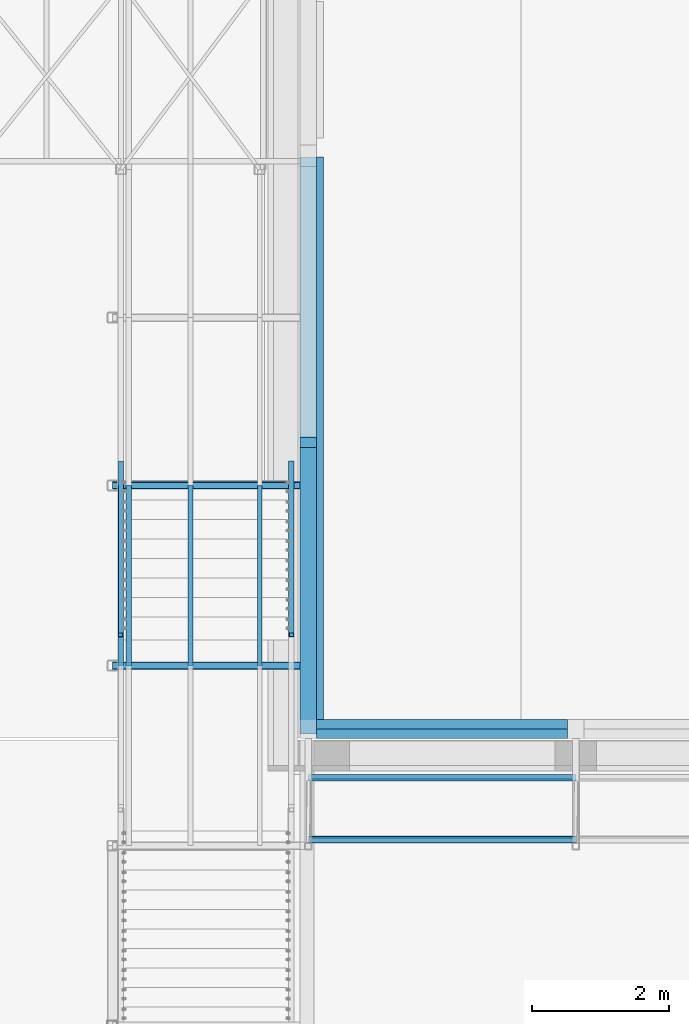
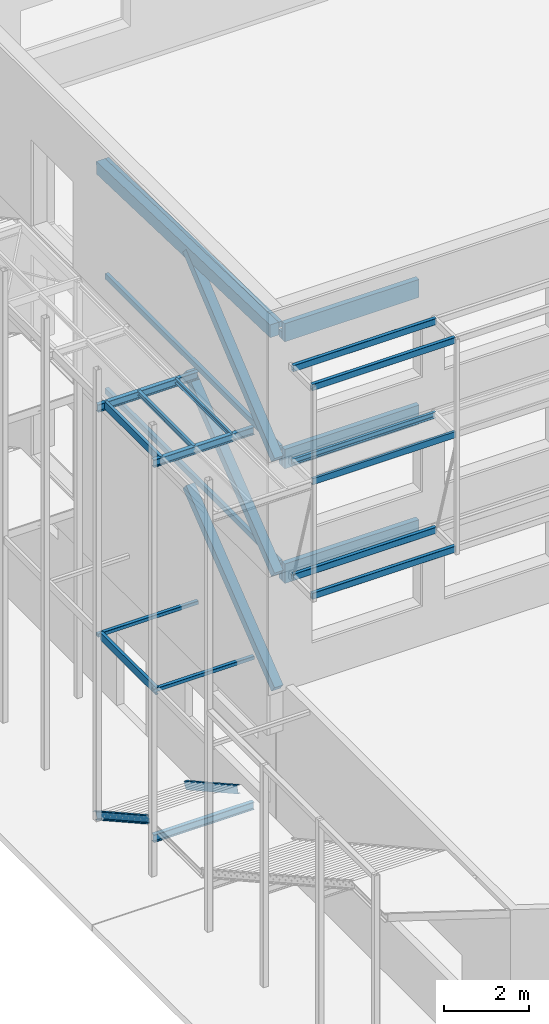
# One storey, part 21 of 78: 25 beams, 5 members, 30 elements without a shape of their own.
"""IFC2X3 building model written with IfcOpenShell, lengths in millimetres."""

from ifc_helpers import new_model, si_unit, frame, origin_with_axes, origin_2d_with_axis, place, context, subcontext, project, spatial, rectangle, hollow_rectangle, i_section, u_section, extrude, clip, halfspace, material, type_object, element, aggregate, save


model = new_model("IFC2X3")

# Units and contexts
model_context = context("Model", 3, precision=1e-05, world=origin_with_axes())
body_context = subcontext(model_context, "Body", "Model", "MODEL_VIEW")
ifc_project = project(units=[si_unit("LENGTHUNIT", "METRE", prefix="MILLI"), si_unit("AREAUNIT", "SQUARE_METRE"), si_unit("VOLUMEUNIT", "CUBIC_METRE"), si_unit("MASSUNIT", "GRAM", prefix="KILO"), si_unit("TIMEUNIT", "SECOND"), si_unit("PLANEANGLEUNIT", "RADIAN"), si_unit("SOLIDANGLEUNIT", "STERADIAN"), si_unit("THERMODYNAMICTEMPERATUREUNIT", "DEGREE_CELSIUS"), si_unit("LUMINOUSINTENSITYUNIT", "LUMEN")], contexts=[model_context])

# Site, building, storey
site_placement = place(None, origin_with_axes())
site = spatial("IfcSite", under=ifc_project, at=site_placement, Name="Site", CompositionType="ELEMENT")
building_placement = place(site_placement, origin_with_axes())
building = spatial("IfcBuilding", under=site, at=building_placement, Name="Undefined", CompositionType="ELEMENT")
storey_placement = place(building_placement, origin_with_axes())
storey = spatial("IfcBuildingStorey", under=building, at=storey_placement, Name="Undefined", CompositionType="ELEMENT", Elevation=0.0)

# Assembly, beam
assembly_1_placement = place(storey_placement, origin_with_axes())
assembly_1 = element("IfcElementAssembly", 1, at=assembly_1_placement, inside=storey, AssemblyPlace="NOTDEFINED", PredefinedType="RIGID_FRAME")
ifc_material_1 = material(Name="STEEL/S275JR")
beam_type_1 = type_object("IfcBeamType", Name="UPN220", PredefinedType="NOTDEFINED")
beam_1_placement = place(assembly_1_placement, frame((-33223.4299999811, -3402.00000000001, 153260.039237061), z_axis=(0.0, 0.0, -1.0), x_axis=(0.0, -1.0, 0.0)))
beam_1 = element("IfcBeam", 2, at=beam_1_placement, type_object=beam_type_1, material=ifc_material_1, Name="SOLIVE", ObjectType="UPN220", context=body_context, shape_type="SweptSolid", body=[
    extrude(u_section(Depth=220.0, FlangeWidth=80.0, WebThickness=9.0, FlangeThickness=12.5, FilletRadius=12.5, EdgeRadius=6.5, FlangeSlope=0.0798299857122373, at=origin_2d_with_axis()), frame((2626.0, 0.0, 0.0), z_axis=(-1.0, 0.0, 0.0), x_axis=(0.0, -1.0, 0.0)), (0.0, 0.0, 1.0), 2626.0),
])
aggregate(assembly_1, [beam_1])

assembly_2_placement = place(storey_placement, origin_with_axes())
assembly_2 = element("IfcElementAssembly", 3, at=assembly_2_placement, inside=storey, AssemblyPlace="NOTDEFINED", PredefinedType="RIGID_FRAME")
beam_2_placement = place(assembly_2_placement, frame((-33101.4299999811, -3402.00000000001, 159860.039237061), z_axis=(0.0, 0.0, -1.0), x_axis=(0.0, -1.0, 0.0)))
beam_2 = element("IfcBeam", 4, at=beam_2_placement, type_object=beam_type_1, material=ifc_material_1, Name="SOLIVE", ObjectType="UPN220", context=body_context, shape_type="SweptSolid", body=[
    extrude(u_section(Depth=220.0, FlangeWidth=80.0, WebThickness=9.0, FlangeThickness=12.5, FilletRadius=12.5, EdgeRadius=6.5, FlangeSlope=0.0798299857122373, at=origin_2d_with_axis()), frame((2626.0, 0.0, 0.0), z_axis=(-1.0, 0.0, 0.0), x_axis=(0.0, -1.0, 0.0)), (0.0, 0.0, 1.0), 2626.0),
])
aggregate(assembly_2, [beam_2])

assembly_3_placement = place(storey_placement, origin_with_axes())
assembly_3 = element("IfcElementAssembly", 5, at=assembly_3_placement, inside=storey, AssemblyPlace="NOTDEFINED", PredefinedType="RIGID_FRAME")
beam_type_2 = type_object("IfcBeamType", Name="IPE140", PredefinedType="NOTDEFINED")
beam_3_placement = place(assembly_3_placement, frame((-32206.4299999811, -6028.00000000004, 159900.039237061), z_axis=(0.0, 0.0, -1.0), x_axis=(0.0, 1.0, 0.0)))
beam_3 = element("IfcBeam", 6, at=beam_3_placement, type_object=beam_type_2, material=ifc_material_1, Name="SOLIVE", ObjectType="IPE140", context=body_context, shape_type="SweptSolid", body=[
    extrude(i_section(OverallWidth=73.0, OverallDepth=140.0, WebThickness=4.699999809, FlangeThickness=6.900000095, FilletRadius=7.0, at=origin_2d_with_axis()), frame((2626.0, 0.0, 0.0), z_axis=(-1.0, 0.0, 0.0), x_axis=(0.0, -1.0, 0.0)), (0.0, 0.0, 1.0), 2626.0),
])
aggregate(assembly_3, [beam_3])

assembly_4_placement = place(storey_placement, origin_with_axes())
assembly_4 = element("IfcElementAssembly", 7, at=assembly_4_placement, inside=storey, AssemblyPlace="NOTDEFINED", PredefinedType="RIGID_FRAME")
beam_type_3 = type_object("IfcBeamType", Name="UPN140", PredefinedType="NOTDEFINED")
beam_4_placement = place(assembly_4_placement, frame((-31192.8599999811, -3402.00000000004, 159900.039237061), z_axis=(0.0, 0.0, 1.0), x_axis=(0.0, -1.0, 0.0)))
beam_4 = element("IfcBeam", 8, at=beam_4_placement, type_object=beam_type_3, material=ifc_material_1, Name="SOLIVE", ObjectType="UPN140", context=body_context, shape_type="SweptSolid", body=[
    extrude(u_section(Depth=140.0, FlangeWidth=60.0, WebThickness=7.0, FlangeThickness=10.0, FilletRadius=10.0, EdgeRadius=5.0, FlangeSlope=0.0798299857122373, at=origin_2d_with_axis()), frame((2626.0, 0.0, 0.0), z_axis=(-1.0, 0.0, 0.0), x_axis=(0.0, -1.0, 0.0)), (0.0, 0.0, 1.0), 2626.0),
])
aggregate(assembly_4, [beam_4])

assembly_5_placement = place(storey_placement, origin_with_axes())
assembly_5 = element("IfcElementAssembly", 9, at=assembly_5_placement, inside=storey, Name="POUTRE", AssemblyPlace="NOTDEFINED", PredefinedType="NOTDEFINED")
ifc_material_2 = material(Name="TIMBER/CHENE")
beam_type_4 = type_object("IfcBeamType", Name="160*100", PredefinedType="NOTDEFINED")
beam_5_placement = place(assembly_5_placement, frame((-30313.4334564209, -6815.00097937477, 156400.041503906), z_axis=(0.0, 0.0, 1.0), x_axis=(0.0, 1.0, 0.0)))
beam_5 = element("IfcBeam", 10, at=beam_5_placement, type_object=beam_type_4, material=ifc_material_2, Name="POUTRE", ObjectType="160*100", context=body_context, shape_type="SweptSolid", body=[
    extrude(rectangle(XDim=100.0, YDim=160.0, at=origin_2d_with_axis()), frame((8200.00781004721, 0.0, 0.0), z_axis=(-1.0, 0.0, 0.0), x_axis=(0.0, -1.0, 0.0)), (0.0, 0.0, 1.0), 8200.01),
])
aggregate(assembly_5, [beam_5])

assembly_6_placement = place(storey_placement, origin_with_axes())
assembly_6 = element("IfcElementAssembly", 11, at=assembly_6_placement, inside=storey, Name="POUTRE", AssemblyPlace="NOTDEFINED", PredefinedType="NOTDEFINED")
beam_6_placement = place(assembly_6_placement, frame((-30313.4328886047, -6815.00483444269, 159700.045043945), z_axis=(0.0, 0.0, 1.0), x_axis=(0.0, 1.0, 0.0)))
beam_6 = element("IfcBeam", 12, at=beam_6_placement, type_object=beam_type_4, material=ifc_material_2, Name="POUTRE", ObjectType="160*100", context=body_context, shape_type="SweptSolid", body=[
    extrude(rectangle(XDim=100.0, YDim=160.0, at=origin_2d_with_axis()), frame((8200.00781004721, 0.0, 0.0), z_axis=(-1.0, 0.0, 0.0), x_axis=(0.0, -1.0, 0.0)), (0.0, 0.0, 1.0), 8200.01),
])
aggregate(assembly_6, [beam_6])

assembly_7_placement = place(storey_placement, origin_with_axes())
assembly_7 = element("IfcElementAssembly", 13, at=assembly_7_placement, inside=storey, Name="POUTRE", AssemblyPlace="NOTDEFINED", PredefinedType="NOTDEFINED")
beam_7_placement = place(assembly_7_placement, frame((-30313.4328886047, -6813.54531159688, 163267.389932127), z_axis=(0.0, 0.0309678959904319, 0.999520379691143), x_axis=(0.0, 0.999520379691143, -0.0309678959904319)))
beam_7 = element("IfcBeam", 14, at=beam_7_placement, type_object=beam_type_4, material=ifc_material_2, Name="POUTRE", ObjectType="160*100", context=body_context, shape_type="SweptSolid", body=[
    extrude(rectangle(XDim=100.0, YDim=160.0, at=origin_2d_with_axis()), frame((8200.00069687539, 0.0, 0.0), z_axis=(-1.0, 0.0, 0.0), x_axis=(0.0, -1.0, 0.0)), (0.0, 0.0, 1.0), 8200.0),
])
aggregate(assembly_7, [beam_7])

assembly_8_placement = place(storey_placement, origin_with_axes())
assembly_8 = element("IfcElementAssembly", 15, at=assembly_8_placement, inside=storey, Name="POUTRE", AssemblyPlace="NOTDEFINED", PredefinedType="NOTDEFINED")
beam_type_5 = type_object("IfcBeamType", Name="360*240", PredefinedType="NOTDEFINED")
beam_8_placement = place(assembly_8_placement, frame((-30483.4338378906, -6816.64180244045, 163167.437405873), z_axis=(0.0, 0.0309678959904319, 0.999520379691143), x_axis=(0.0, 0.999520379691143, -0.0309678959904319)))
beam_8 = element("IfcBeam", 16, at=beam_8_placement, type_object=beam_type_5, material=ifc_material_2, Name="POUTRE", ObjectType="360*240", context=body_context, shape_type="SweptSolid", body=[
    extrude(rectangle(XDim=240.0, YDim=360.0, at=origin_2d_with_axis()), frame((8200.00069687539, 0.0, 0.0), z_axis=(-1.0, 0.0, 0.0), x_axis=(0.0, -1.0, 0.0)), (0.0, 0.0, 1.0), 8200.0),
])
aggregate(assembly_8, [beam_8])

# Assembly, member
assembly_9_placement = place(storey_placement, origin_with_axes())
assembly_9 = element("IfcElementAssembly", 17, at=assembly_9_placement, inside=storey, Name="POUTRE", AssemblyPlace="NOTDEFINED", PredefinedType="NOTDEFINED")
member_type_1 = type_object("IfcMemberType", Name="240*240", PredefinedType="NOTDEFINED")
member_1_placement = place(assembly_9_placement, frame((-30483.4327932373, -6954.99894756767, 152940.040050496), z_axis=(0.0, -0.619644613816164, 0.784882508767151), x_axis=(0.0, 0.784882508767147, 0.619644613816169)))
member_1 = element("IfcMember", 18, at=member_1_placement, type_object=member_type_1, material=ifc_material_2, Name="POUTRE", ObjectType="240*240", context=body_context, shape_type="SweptSolid", body=[
    extrude(rectangle(XDim=240.0, YDim=240.0, at=origin_2d_with_axis()), frame((5325.63824287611, 0.0, 0.0), z_axis=(-1.0, 0.0, 0.0), x_axis=(0.0, -1.0, 0.0)), (0.0, 0.0, 1.0), 5325.64),
])
aggregate(assembly_9, [member_1])

assembly_10_placement = place(storey_placement, origin_with_axes())
assembly_10 = element("IfcElementAssembly", 19, at=assembly_10_placement, inside=storey, Name="POUTRE", AssemblyPlace="NOTDEFINED", PredefinedType="NOTDEFINED")
member_2_placement = place(assembly_10_placement, frame((-30483.4327932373, -6954.99894791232, 156240.043102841), z_axis=(0.0, -0.619644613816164, 0.784882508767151), x_axis=(0.0, 0.784882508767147, 0.619644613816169)))
member_2 = element("IfcMember", 20, at=member_2_placement, type_object=member_type_1, material=ifc_material_2, Name="POUTRE", ObjectType="240*240", context=body_context, shape_type="SweptSolid", body=[
    extrude(rectangle(XDim=240.0, YDim=240.0, at=origin_2d_with_axis()), frame((5325.63824287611, 0.0, 0.0), z_axis=(-1.0, 0.0, 0.0), x_axis=(0.0, -1.0, 0.0)), (0.0, 0.0, 1.0), 5325.64),
])
aggregate(assembly_10, [member_2])

assembly_11_placement = place(storey_placement, origin_with_axes())
assembly_11 = element("IfcElementAssembly", 21, at=assembly_11_placement, inside=storey, Name="POUTRE", AssemblyPlace="NOTDEFINED", PredefinedType="NOTDEFINED")
member_3_placement = place(assembly_11_placement, frame((-30483.4327932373, -6954.99591346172, 159540.033779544), z_axis=(0.0, -0.642223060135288, 0.766517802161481), x_axis=(0.0, 0.766517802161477, 0.642223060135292)))
member_3 = element("IfcMember", 22, at=member_3_placement, type_object=member_type_1, material=ifc_material_2, Name="POUTRE", ObjectType="240*240", context=body_context, shape_type="SweptSolid", body=[
    extrude(rectangle(XDim=240.0, YDim=240.0, at=origin_2d_with_axis()), frame((5453.22884237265, 0.0, 3.02715010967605e-13), z_axis=(-1.0, 0.0, 0.0), x_axis=(0.0, -1.0, 0.0)), (0.0, 0.0, 1.0), 5453.23),
])
aggregate(assembly_11, [member_3])

assembly_12_placement = place(storey_placement, origin_with_axes())
assembly_12 = element("IfcElementAssembly", 23, at=assembly_12_placement, inside=storey, AssemblyPlace="NOTDEFINED", PredefinedType="RIGID_FRAME")
ifc_material_3 = material(Name="STEEL/S235JR")
member_type_2 = type_object("IfcMemberType", Name="UPN220", PredefinedType="NOTDEFINED")
member_4_placement = place(assembly_12_placement, frame((-30736.4300000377, -5606.82281561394, 149298.978260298), z_axis=(0.0, 0.487203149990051, 0.873288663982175), x_axis=(0.0, 0.873288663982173, -0.487203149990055)))
member_4 = element("IfcMember", 24, at=member_4_placement, type_object=member_type_2, material=ifc_material_3, Name="LIMON", ObjectType="UPN220", context=body_context, shape_type="Clipping", body=[
    clip(extrude(u_section(Depth=220.0, FlangeWidth=80.0, WebThickness=9.0, FlangeThickness=12.5, FilletRadius=12.5, EdgeRadius=6.5, FlangeSlope=0.0798299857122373, at=origin_2d_with_axis()), frame((2875.59717523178, 0.0, 1.42326598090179e-11), z_axis=(-1.0, 0.0, 0.0), x_axis=(0.0, -1.0, 0.0)), (0.0, 0.0, 1.0), 3020.89), halfspace(frame((-1.64160519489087e-06, -39.9999999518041, 109.99999989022), z_axis=(-0.967803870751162, 0.0, -0.251705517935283), x_axis=(0.0, -1.0, 0.0)), False)),
])
aggregate(assembly_12, [member_4])

assembly_13_placement = place(storey_placement, origin_with_axes())
assembly_13 = element("IfcElementAssembly", 25, at=assembly_13_placement, inside=storey, AssemblyPlace="NOTDEFINED", PredefinedType="RIGID_FRAME")
member_5_placement = place(assembly_13_placement, frame((-33216.4300000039, -3095.5964004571, 147897.978258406), z_axis=(0.0, 0.487203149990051, 0.873288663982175), x_axis=(0.0, -0.873288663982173, 0.487203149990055)))
member_5 = element("IfcMember", 26, at=member_5_placement, type_object=member_type_2, material=ifc_material_3, Name="LIMON", ObjectType="UPN220", context=body_context, shape_type="Clipping", body=[
    clip(extrude(u_section(Depth=220.0, FlangeWidth=80.0, WebThickness=9.0, FlangeThickness=12.5, FilletRadius=12.5, EdgeRadius=6.5, FlangeSlope=0.0798299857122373, at=origin_2d_with_axis()), frame((3020.88944459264, 0.0, 0.0), z_axis=(-1.0, 0.0, 0.0), x_axis=(0.0, -1.0, 0.0)), (0.0, 0.0, 1.0), 3020.89), halfspace(frame((2875.59717521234, -39.9999999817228, 110.000000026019), z_axis=(-0.967803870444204, 0.0, 0.251705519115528), x_axis=(0.0, -1.0, 0.0)), True)),
])
aggregate(assembly_13, [member_5])

# Assembly, beam
assembly_14_placement = place(storey_placement, origin_with_axes())
assembly_14 = element("IfcElementAssembly", 27, at=assembly_14_placement, inside=storey, Name="POUTRE", AssemblyPlace="NOTDEFINED", PredefinedType="RIGID_FRAME")
beam_type_6 = type_object("IfcBeamType", Name="IPE220", PredefinedType="NOTDEFINED")
beam_9_placement = place(assembly_14_placement, frame((-33338.4298168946, -6028.0, 149065.04001331), z_axis=(0.0, 0.0, -1.0), x_axis=(1.0, 0.0, 0.0)))
beam_9 = element("IfcBeam", 28, at=beam_9_placement, type_object=beam_type_6, material=ifc_material_1, Name="POUTRE", ObjectType="IPE220", context=body_context, shape_type="SweptSolid", body=[
    extrude(i_section(OverallWidth=110.0, OverallDepth=220.0, WebThickness=5.900000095, FlangeThickness=9.199999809, FilletRadius=12.0, at=origin_2d_with_axis()), frame((2733.43, 0.0, 0.0), z_axis=(-1.0, 0.0, 0.0), x_axis=(0.0, -1.0, 0.0)), (0.0, 0.0, 1.0), 2733.43),
])
aggregate(assembly_14, [beam_9])

assembly_15_placement = place(storey_placement, origin_with_axes())
assembly_15 = element("IfcElementAssembly", 29, at=assembly_15_placement, inside=storey, Name="CONSOLE", AssemblyPlace="NOTDEFINED", PredefinedType="RIGID_FRAME")
beam_10_placement = place(assembly_15_placement, frame((-33338.4300306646, -6028.0, 159860.04), z_axis=(0.0, 0.0, -1.0), x_axis=(1.0, 0.0, 0.0)))
beam_10 = element("IfcBeam", 30, at=beam_10_placement, type_object=beam_type_6, material=ifc_material_1, Name="CONSOLE", ObjectType="IPE220", context=body_context, shape_type="SweptSolid", body=[
    extrude(i_section(OverallWidth=110.0, OverallDepth=220.0, WebThickness=5.900000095, FlangeThickness=9.199999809, FilletRadius=12.0, at=origin_2d_with_axis()), frame((2735.00000000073, 1.81898940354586e-12, 1.44789694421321e-19), z_axis=(-1.0, 0.0, 0.0), x_axis=(0.0, -1.0, 0.0)), (0.0, 0.0, 1.0), 2735.0),
])
aggregate(assembly_15, [beam_10])

assembly_16_placement = place(storey_placement, origin_with_axes())
assembly_16 = element("IfcElementAssembly", 31, at=assembly_16_placement, inside=storey, Name="CONSOLE", AssemblyPlace="NOTDEFINED", PredefinedType="RIGID_FRAME")
beam_11_placement = place(assembly_16_placement, frame((-33338.430030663, -3402.0, 159860.04), z_axis=(0.0, 0.0, -1.0), x_axis=(1.0, 0.0, 0.0)))
beam_11 = element("IfcBeam", 32, at=beam_11_placement, type_object=beam_type_6, material=ifc_material_1, Name="CONSOLE", ObjectType="IPE220", context=body_context, shape_type="SweptSolid", body=[
    extrude(i_section(OverallWidth=110.0, OverallDepth=220.0, WebThickness=5.900000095, FlangeThickness=9.199999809, FilletRadius=12.0, at=origin_2d_with_axis()), frame((2735.00000000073, 1.81898940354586e-12, 1.44789694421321e-19), z_axis=(-1.0, 0.0, 0.0), x_axis=(0.0, -1.0, 0.0)), (0.0, 0.0, 1.0), 2735.0),
])
aggregate(assembly_16, [beam_11])

assembly_17_placement = place(storey_placement, origin_with_axes())
assembly_17 = element("IfcElementAssembly", 33, at=assembly_17_placement, inside=storey, Name="CONSOLE", AssemblyPlace="NOTDEFINED", PredefinedType="RIGID_FRAME")
beam_type_7 = type_object("IfcBeamType", Name="TUBE-C-100*100*4", PredefinedType="NOTDEFINED")
beam_12_placement = place(assembly_17_placement, frame((-33338.4300139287, -6028.0, 153320.04), z_axis=(0.0, 0.0, -1.0), x_axis=(1.0, 0.0, 0.0)))
beam_12 = element("IfcBeam", 34, at=beam_12_placement, type_object=beam_type_7, material=ifc_material_1, Name="CONSOLE", ObjectType="TUBE-C-100*100*4", context=body_context, shape_type="SweptSolid", body=[
    extrude(hollow_rectangle(XDim=100.0, YDim=100.0, WallThickness=4.0, InnerFilletRadius=4.0, OuterFilletRadius=8.0, at=origin_2d_with_axis()), frame((2735.00000000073, 1.81898940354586e-12, 1.44789694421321e-19), z_axis=(-1.0, 0.0, 0.0), x_axis=(0.0, -1.0, 0.0)), (0.0, 0.0, 1.0), 2735.0),
])
aggregate(assembly_17, [beam_12])

assembly_18_placement = place(storey_placement, origin_with_axes())
assembly_18 = element("IfcElementAssembly", 35, at=assembly_18_placement, inside=storey, Name="CONSOLE", AssemblyPlace="NOTDEFINED", PredefinedType="RIGID_FRAME")
beam_13_placement = place(assembly_18_placement, frame((-33338.4300139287, -3402.0, 153320.04), z_axis=(0.0, 0.0, -1.0), x_axis=(1.0, 0.0, 0.0)))
beam_13 = element("IfcBeam", 36, at=beam_13_placement, type_object=beam_type_7, material=ifc_material_1, Name="CONSOLE", ObjectType="TUBE-C-100*100*4", context=body_context, shape_type="SweptSolid", body=[
    extrude(hollow_rectangle(XDim=100.0, YDim=100.0, WallThickness=4.0, InnerFilletRadius=4.0, OuterFilletRadius=8.0, at=origin_2d_with_axis()), frame((2735.00000000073, 1.81898940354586e-12, 1.44789694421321e-19), z_axis=(-1.0, 0.0, 0.0), x_axis=(0.0, -1.0, 0.0)), (0.0, 0.0, 1.0), 2735.0),
])
aggregate(assembly_18, [beam_13])

assembly_19_placement = place(storey_placement, origin_with_axes())
assembly_19 = element("IfcElementAssembly", 37, at=assembly_19_placement, inside=storey, AssemblyPlace="NOTDEFINED", PredefinedType="RIGID_FRAME")
beam_type_8 = type_object("IfcBeamType", Name="TUBE-R-180*100*4", PredefinedType="NOTDEFINED")
beam_14_placement = place(assembly_19_placement, frame((-30485.0, -7663.00047683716, 162590.054194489), z_axis=(0.0, 0.0, 1.0), x_axis=(1.0, 0.0, 0.0)))
beam_14 = element("IfcBeam", 38, at=beam_14_placement, type_object=beam_type_8, material=ifc_material_1, Name="SOLIVE", ObjectType="TUBE-R-180*100*4", context=body_context, shape_type="SweptSolid", body=[
    extrude(hollow_rectangle(XDim=100.0, YDim=180.0, WallThickness=4.0, InnerFilletRadius=4.0, OuterFilletRadius=8.0, at=origin_2d_with_axis()), frame((3899.99999999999, 0.0, 0.0), z_axis=(-1.0, 0.0, 0.0), x_axis=(0.0, -1.0, 0.0)), (0.0, 0.0, 1.0), 3900.0),
])
aggregate(assembly_19, [beam_14])

assembly_20_placement = place(storey_placement, origin_with_axes())
assembly_20 = element("IfcElementAssembly", 39, at=assembly_20_placement, inside=storey, AssemblyPlace="NOTDEFINED", PredefinedType="RIGID_FRAME")
beam_15_placement = place(assembly_20_placement, frame((-30485.0, -8563.00047683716, 162590.054194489), z_axis=(0.0, 0.0, 1.0), x_axis=(1.0, 0.0, 0.0)))
beam_15 = element("IfcBeam", 40, at=beam_15_placement, type_object=beam_type_8, material=ifc_material_1, Name="SOLIVE", ObjectType="TUBE-R-180*100*4", context=body_context, shape_type="SweptSolid", body=[
    extrude(hollow_rectangle(XDim=100.0, YDim=180.0, WallThickness=4.0, InnerFilletRadius=4.0, OuterFilletRadius=8.0, at=origin_2d_with_axis()), frame((3899.99999999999, 0.0, 0.0), z_axis=(-1.0, 0.0, 0.0), x_axis=(0.0, -1.0, 0.0)), (0.0, 0.0, 1.0), 3900.0),
])
aggregate(assembly_20, [beam_15])

assembly_21_placement = place(storey_placement, origin_with_axes())
assembly_21 = element("IfcElementAssembly", 41, at=assembly_21_placement, inside=storey, AssemblyPlace="NOTDEFINED", PredefinedType="RIGID_FRAME")
beam_16_placement = place(assembly_21_placement, frame((-30485.0, -7663.00047683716, 156580.054194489), z_axis=(0.0, 0.0, 1.0), x_axis=(1.0, 0.0, 0.0)))
beam_16 = element("IfcBeam", 42, at=beam_16_placement, type_object=beam_type_8, material=ifc_material_1, Name="SOLIVE", ObjectType="TUBE-R-180*100*4", context=body_context, shape_type="SweptSolid", body=[
    extrude(hollow_rectangle(XDim=100.0, YDim=180.0, WallThickness=4.0, InnerFilletRadius=4.0, OuterFilletRadius=8.0, at=origin_2d_with_axis()), frame((3899.99999999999, 0.0, 0.0), z_axis=(-1.0, 0.0, 0.0), x_axis=(0.0, -1.0, 0.0)), (0.0, 0.0, 1.0), 3900.0),
])
aggregate(assembly_21, [beam_16])

assembly_22_placement = place(storey_placement, origin_with_axes())
assembly_22 = element("IfcElementAssembly", 43, at=assembly_22_placement, inside=storey, AssemblyPlace="NOTDEFINED", PredefinedType="RIGID_FRAME")
beam_17_placement = place(assembly_22_placement, frame((-30485.0, -8563.00047683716, 156580.054194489), z_axis=(0.0, 0.0, 1.0), x_axis=(1.0, 0.0, 0.0)))
beam_17 = element("IfcBeam", 44, at=beam_17_placement, type_object=beam_type_8, material=ifc_material_1, Name="SOLIVE", ObjectType="TUBE-R-180*100*4", context=body_context, shape_type="SweptSolid", body=[
    extrude(hollow_rectangle(XDim=100.0, YDim=180.0, WallThickness=4.0, InnerFilletRadius=4.0, OuterFilletRadius=8.0, at=origin_2d_with_axis()), frame((3899.99999999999, 0.0, 0.0), z_axis=(-1.0, 0.0, 0.0), x_axis=(0.0, -1.0, 0.0)), (0.0, 0.0, 1.0), 3900.0),
])
aggregate(assembly_22, [beam_17])

assembly_23_placement = place(storey_placement, origin_with_axes())
assembly_23 = element("IfcElementAssembly", 45, at=assembly_23_placement, inside=storey, AssemblyPlace="NOTDEFINED", PredefinedType="RIGID_FRAME")
beam_type_9 = type_object("IfcBeamType", Name="UPN180", PredefinedType="NOTDEFINED")
beam_18_placement = place(assembly_23_placement, frame((-30485.0, -7648.0, 159880.04), z_axis=(0.0, 0.0, 1.0), x_axis=(1.0, 0.0, 0.0)))
beam_18 = element("IfcBeam", 46, at=beam_18_placement, type_object=beam_type_9, material=ifc_material_1, Name="SOLIVE", ObjectType="UPN180", context=body_context, shape_type="SweptSolid", body=[
    extrude(u_section(Depth=180.0, FlangeWidth=70.0, WebThickness=8.0, FlangeThickness=11.0, FilletRadius=11.0, EdgeRadius=5.5, FlangeSlope=0.0798299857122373, at=origin_2d_with_axis()), frame((3899.99999999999, 0.0, 0.0), z_axis=(-1.0, 0.0, 0.0), x_axis=(0.0, -1.0, 0.0)), (0.0, 0.0, 1.0), 3900.0),
])
aggregate(assembly_23, [beam_18])

assembly_24_placement = place(storey_placement, origin_with_axes())
assembly_24 = element("IfcElementAssembly", 47, at=assembly_24_placement, inside=storey, Name="POUTRE", AssemblyPlace="NOTDEFINED", PredefinedType="RIGID_FRAME")
beam_19_placement = place(assembly_24_placement, frame((-30485.0, -8578.0, 159880.04), z_axis=(0.0, 0.0, -1.0), x_axis=(1.0, 0.0, 0.0)))
beam_19 = element("IfcBeam", 48, at=beam_19_placement, type_object=beam_type_9, material=ifc_material_1, Name="SOLIVE", ObjectType="UPN180", context=body_context, shape_type="SweptSolid", body=[
    extrude(u_section(Depth=180.0, FlangeWidth=70.0, WebThickness=8.0, FlangeThickness=11.0, FilletRadius=11.0, EdgeRadius=5.5, FlangeSlope=0.0798299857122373, at=origin_2d_with_axis()), frame((3899.99999999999, 0.0, 0.0), z_axis=(-1.0, 0.0, 0.0), x_axis=(0.0, -1.0, 0.0)), (0.0, 0.0, 1.0), 3900.0),
])
aggregate(assembly_24, [beam_19])

assembly_25_placement = place(storey_placement, origin_with_axes())
assembly_25 = element("IfcElementAssembly", 49, at=assembly_25_placement, inside=storey, Name="POUTRE", AssemblyPlace="NOTDEFINED", PredefinedType="NOTDEFINED")
beam_type_10 = type_object("IfcBeamType", Name="520*140", PredefinedType="NOTDEFINED")
beam_20_placement = place(assembly_25_placement, frame((-26703.4320831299, -7025.00040054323, 163210.042724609), z_axis=(0.0, 0.0, 1.0), x_axis=(-1.0, 0.0, 0.0)))
beam_20 = element("IfcBeam", 50, at=beam_20_placement, type_object=beam_type_10, material=ifc_material_2, Name="POUTRE", ObjectType="520*140", context=body_context, shape_type="SweptSolid", body=[
    extrude(rectangle(XDim=140.0, YDim=520.0, at=origin_2d_with_axis()), frame((3660.0006866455, 0.0, 0.0), z_axis=(-1.0, 0.0, 0.0), x_axis=(0.0, -1.0, 0.0)), (0.0, 0.0, 1.0), 3660.0),
])
aggregate(assembly_25, [beam_20])

assembly_26_placement = place(storey_placement, origin_with_axes())
assembly_26 = element("IfcElementAssembly", 51, at=assembly_26_placement, inside=storey, Name="POUTRE", AssemblyPlace="NOTDEFINED", PredefinedType="NOTDEFINED")
beam_type_11 = type_object("IfcBeamType", Name="200*140", PredefinedType="NOTDEFINED")
beam_21_placement = place(assembly_26_placement, frame((-26703.4320831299, -6885.00101089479, 163050.042724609), z_axis=(0.0, 0.0, 1.0), x_axis=(-1.0, 0.0, 0.0)))
beam_21 = element("IfcBeam", 52, at=beam_21_placement, type_object=beam_type_11, material=ifc_material_2, Name="POUTRE", ObjectType="200*140", context=body_context, shape_type="SweptSolid", body=[
    extrude(rectangle(XDim=140.0, YDim=200.0, at=origin_2d_with_axis()), frame((3660.0006866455, 0.0, 0.0), z_axis=(-1.0, 0.0, 0.0), x_axis=(0.0, -1.0, 0.0)), (0.0, 0.0, 1.0), 3660.0),
])
aggregate(assembly_26, [beam_21])

assembly_27_placement = place(storey_placement, origin_with_axes())
assembly_27 = element("IfcElementAssembly", 53, at=assembly_27_placement, inside=storey, Name="POUTRE", AssemblyPlace="NOTDEFINED", PredefinedType="NOTDEFINED")
beam_22_placement = place(assembly_27_placement, frame((-26703.4320831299, -6885.00101089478, 159390.0390625), z_axis=(0.0, 0.0, 1.0), x_axis=(-1.0, 0.0, 0.0)))
beam_22 = element("IfcBeam", 54, at=beam_22_placement, type_object=beam_type_11, material=ifc_material_2, Name="POUTRE", ObjectType="200*140", context=body_context, shape_type="SweptSolid", body=[
    extrude(rectangle(XDim=140.0, YDim=200.0, at=origin_2d_with_axis()), frame((3660.0006866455, 0.0, 0.0), z_axis=(-1.0, 0.0, 0.0), x_axis=(0.0, -1.0, 0.0)), (0.0, 0.0, 1.0), 3660.0),
])
aggregate(assembly_27, [beam_22])

assembly_28_placement = place(storey_placement, origin_with_axes())
assembly_28 = element("IfcElementAssembly", 55, at=assembly_28_placement, inside=storey, Name="POUTRE", AssemblyPlace="NOTDEFINED", PredefinedType="NOTDEFINED")
beam_23_placement = place(assembly_28_placement, frame((-26703.4312438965, -6885.00101089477, 156090.036499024), z_axis=(0.0, 0.0, 1.0), x_axis=(-1.0, 0.0, 0.0)))
beam_23 = element("IfcBeam", 56, at=beam_23_placement, type_object=beam_type_11, material=ifc_material_2, Name="POUTRE", ObjectType="200*140", context=body_context, shape_type="SweptSolid", body=[
    extrude(rectangle(XDim=140.0, YDim=200.0, at=origin_2d_with_axis()), frame((3660.0006866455, 0.0, 0.0), z_axis=(-1.0, 0.0, 0.0), x_axis=(0.0, -1.0, 0.0)), (0.0, 0.0, 1.0), 3660.0),
])
aggregate(assembly_28, [beam_23])

assembly_29_placement = place(storey_placement, origin_with_axes())
assembly_29 = element("IfcElementAssembly", 57, at=assembly_29_placement, inside=storey, Name="POUTRE", AssemblyPlace="NOTDEFINED", PredefinedType="NOTDEFINED")
beam_type_12 = type_object("IfcBeamType", Name="560*140", PredefinedType="NOTDEFINED")
beam_24_placement = place(assembly_29_placement, frame((-26703.4320831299, -7025.00040054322, 159570.0390625), z_axis=(0.0, 0.0, 1.0), x_axis=(-1.0, 0.0, 0.0)))
beam_24 = element("IfcBeam", 58, at=beam_24_placement, type_object=beam_type_12, material=ifc_material_2, Name="POUTRE", ObjectType="560*140", context=body_context, shape_type="SweptSolid", body=[
    extrude(rectangle(XDim=140.0, YDim=560.0, at=origin_2d_with_axis()), frame((3660.0006866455, 0.0, 0.0), z_axis=(-1.0, 0.0, 0.0), x_axis=(0.0, -1.0, 0.0)), (0.0, 0.0, 1.0), 3660.0),
])
aggregate(assembly_29, [beam_24])

assembly_30_placement = place(storey_placement, origin_with_axes())
assembly_30 = element("IfcElementAssembly", 59, at=assembly_30_placement, inside=storey, Name="POUTRE", AssemblyPlace="NOTDEFINED", PredefinedType="NOTDEFINED")
beam_25_placement = place(assembly_30_placement, frame((-26703.4312438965, -7025.00040054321, 156270.036499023), z_axis=(0.0, 0.0, 1.0), x_axis=(-1.0, 0.0, 0.0)))
beam_25 = element("IfcBeam", 60, at=beam_25_placement, type_object=beam_type_12, material=ifc_material_2, Name="POUTRE", ObjectType="560*140", context=body_context, shape_type="SweptSolid", body=[
    extrude(rectangle(XDim=140.0, YDim=560.0, at=origin_2d_with_axis()), frame((3660.0006866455, 0.0, 0.0), z_axis=(-1.0, 0.0, 0.0), x_axis=(0.0, -1.0, 0.0)), (0.0, 0.0, 1.0), 3660.0),
])
aggregate(assembly_30, [beam_25])

save(model, "model.ifc")
